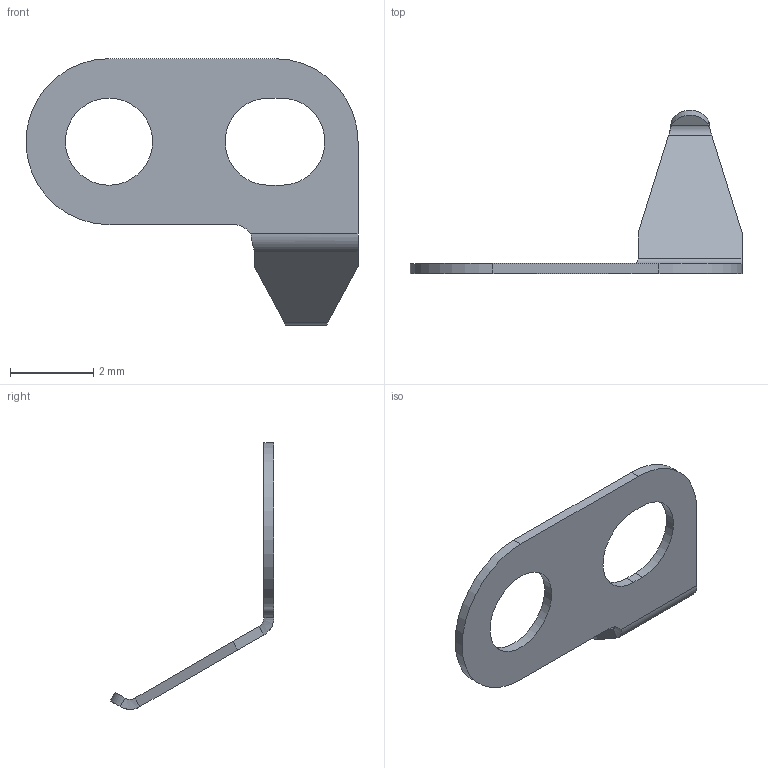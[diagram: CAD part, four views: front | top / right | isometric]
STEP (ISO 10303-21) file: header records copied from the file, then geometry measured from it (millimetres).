
FILE_DESCRIPTION(/* description */ (''),/* implementation_level */ '2;1');
FILE_NAME(/* name */ 'C:\Users\strothej\Documents\ActualDocuments\MicroscopeParts\TwoPhotonSystem\ScanningMechanics\v28\Drawings\Dichroic_5mm_Clip.stp',/* time_stamp */ '2017-06-08T11:37:26-07:00',/* author */ ('strothej'),/* organization */ (''),/* preprocessor_version */ 'ST-DEVELOPER v16.1',/* originating_system */ 'Autodesk Inventor 2016',/* authorisation */ '');
FILE_SCHEMA (('AUTOMOTIVE_DESIGN { 1 0 10303 214 3 1 1 }'));
Length unit declared in the file: millimetre
Products named in the file (1): Dichroic_5mm_Clip
Bounding box: 8 x 3.94 x 6.43 mm (x, y, z)
Volume: 7.3 mm3; surface area: 71.4 mm2
Topology: 1 solids, 1 shells, 30 faces, 70 edges, 42 vertices
Faces by surface type: plane 16, cylinder 11, bspline 3
Full cylindrical faces by diameter (mm): 2.1 x1
Entity records: 937 total; most frequent: CARTESIAN_POINT 235, ORIENTED_EDGE 138, DIRECTION 135, EDGE_CURVE 69, LINE 47, VECTOR 47, AXIS2_PLACEMENT_3D 44, VERTEX_POINT 42
